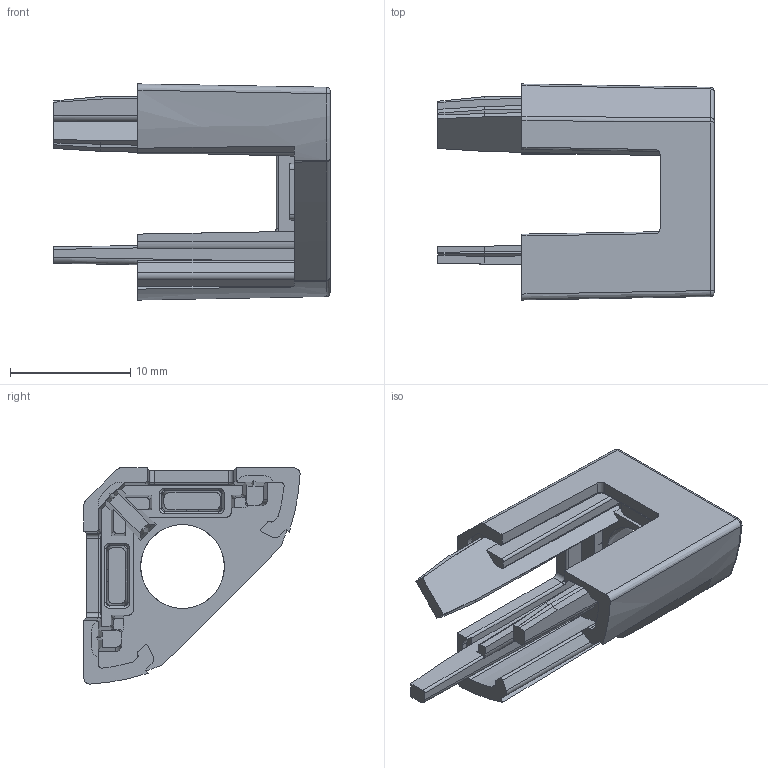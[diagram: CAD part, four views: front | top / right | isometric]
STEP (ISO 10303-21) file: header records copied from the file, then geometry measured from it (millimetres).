
FILE_DESCRIPTION (( 'STEP AP214' ), '1' );
FILE_NAME ('2000316 Porto 5 Endkappenset .STEP', '2022-10-27T09:49:06', ( '' ), ( '' ), 'SwSTEP 2.0', 'SolidWorks 2021', '' );
FILE_SCHEMA (( 'AUTOMOTIVE_DESIGN' ));
Length unit declared in the file: millimetre
Products named in the file (1): 2000316 Porto 5 Endkappenset 
Bounding box: 23 x 18.01 x 18.01 mm (x, y, z)
Volume: 1270.9 mm3; surface area: 2166.1 mm2
Topology: 3 solids, 3 shells, 352 faces, 922 edges, 582 vertices
Faces by surface type: plane 180, cylinder 118, cone 21, torus 19, bspline 12, sphere 2
Entity records: 11366 total; most frequent: CARTESIAN_POINT 2731, ORIENTED_EDGE 1844, DIRECTION 1745, EDGE_CURVE 922, VECTOR 601, LINE 601, VERTEX_POINT 582, AXIS2_PLACEMENT_3D 572
